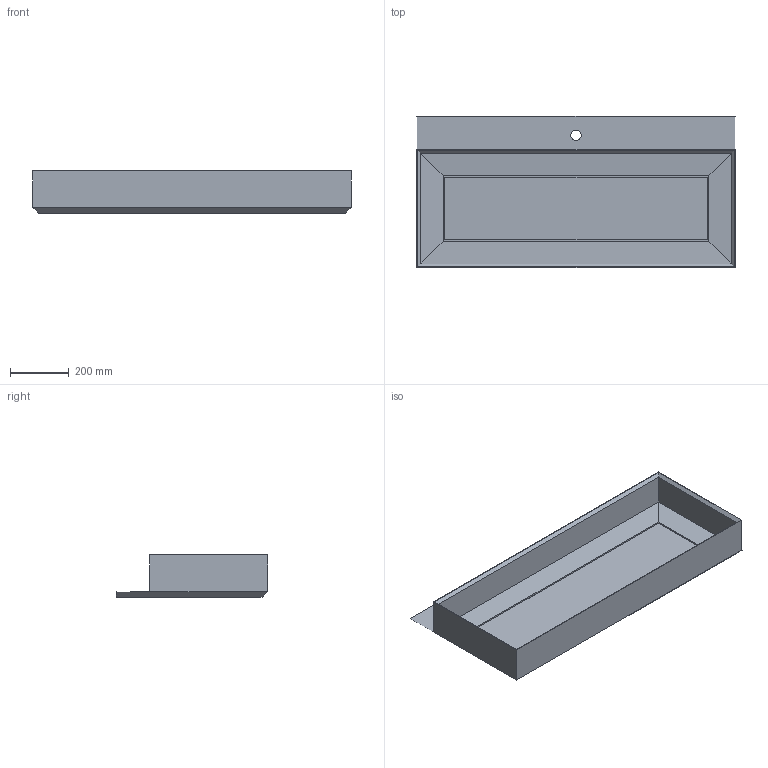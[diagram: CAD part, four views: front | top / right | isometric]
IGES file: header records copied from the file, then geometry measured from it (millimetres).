
Start section: Data from Parasolid IGES Translator 19.0.9, Copyright(c) 2006 Siemens PL M Software. All Rights Reserved.
Global section: file name: noorth-top-H 1,9 D 51,3 W 108_4652.igs; native system: By Siemens PLM Incorporated; preprocessor: XPlus GENERIC/IGES 19.0.9; author: Noname; organization: Noname; date: 20200603.115749; units: metre
Bounding box: 1080 x 513 x 144 mm (x, y, z)
Volume: 17287179.8 mm3; surface area: 2692381.6 mm2
Topology: 2 solids, 2 shells, 42 faces, 105 edges, 66 vertices
Faces by surface type: plane 41, cylinder 1
Full cylindrical faces by diameter (mm): 34.9 x1
